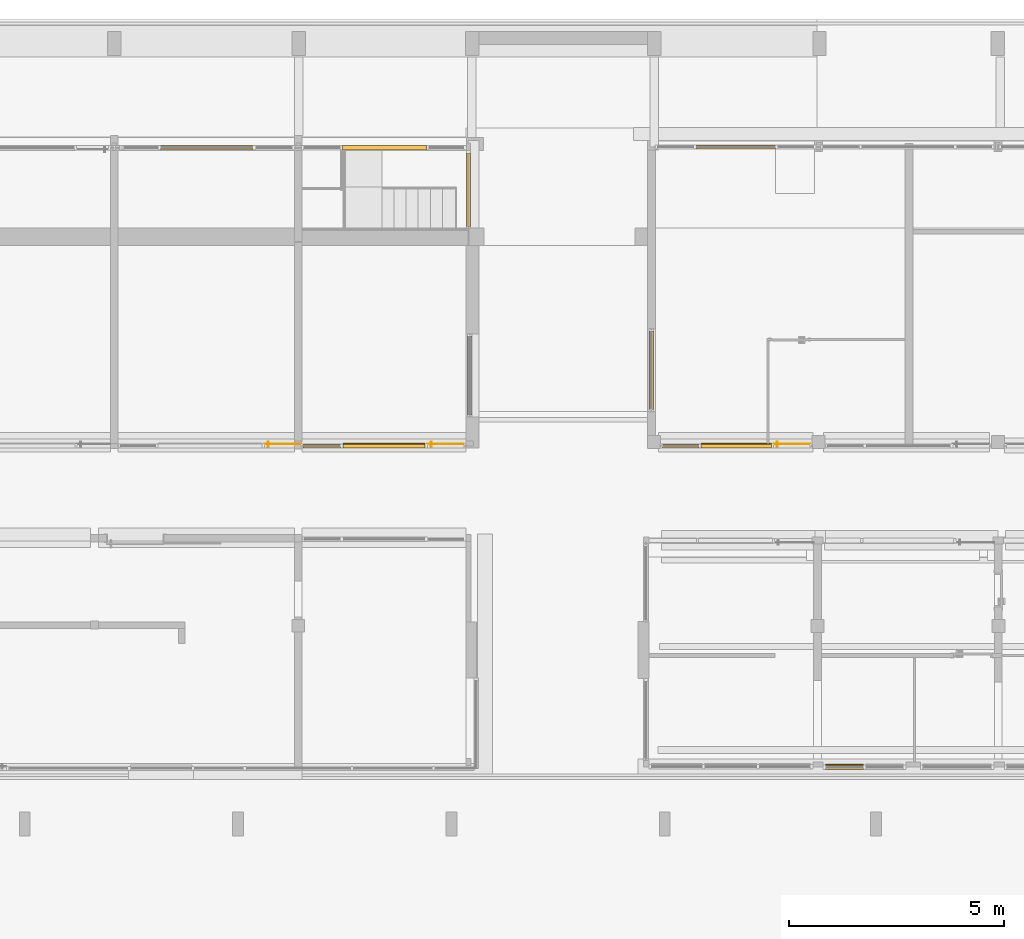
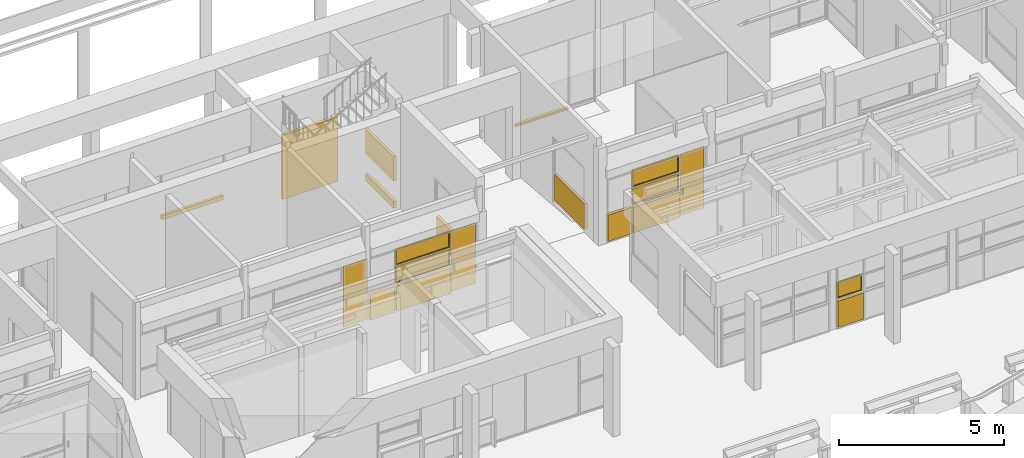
# One storey, part 106 of 117: 12 curtain walls, 5 windows, 3 doors, 9 elements without a shape of their own.
"""IFC4 building model written with IfcOpenShell, lengths in metres."""

from ifc_helpers import new_model, entity, si_unit, converted_unit, derived_unit, direction, frame, origin, place, context, subcontext, project, spatial, indexed_curve, outline, extrude, source, transform, mapped, material, constituent, constituent_set, type_object, type_shapes, element, aggregate, save


model = new_model("IFC4")

# Units and contexts
model_context = context("Model", 3, precision=1e-05, world=origin(), true_north=direction((6.123031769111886e-17, 1.0)))
body_context = subcontext(model_context, "Body", "Model", "MODEL_VIEW")
ifc_project = project(units=[si_unit("LENGTHUNIT", "METRE"), si_unit("AREAUNIT", "SQUARE_METRE"), si_unit("VOLUMEUNIT", "CUBIC_METRE"), converted_unit("PLANEANGLEUNIT", "DEGREE", entity("IfcRatioMeasure", 0.017453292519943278), si_unit("PLANEANGLEUNIT", "RADIAN"), dimensions=[0, 0, 0, 0, 0, 0, 0]), si_unit("MASSUNIT", "GRAM", prefix="KILO"), derived_unit("MASSDENSITYUNIT", [(si_unit("MASSUNIT", "GRAM", prefix="KILO"), 1), (si_unit("LENGTHUNIT", "METRE"), -3)]), derived_unit("MOMENTOFINERTIAUNIT", [(si_unit("LENGTHUNIT", "METRE"), 4)]), si_unit("TIMEUNIT", "SECOND"), si_unit("FREQUENCYUNIT", "HERTZ"), si_unit("THERMODYNAMICTEMPERATUREUNIT", "DEGREE_CELSIUS"), derived_unit("THERMALTRANSMITTANCEUNIT", [(si_unit("MASSUNIT", "GRAM", prefix="KILO"), 1), (si_unit("THERMODYNAMICTEMPERATUREUNIT", "KELVIN"), -1), (si_unit("TIMEUNIT", "SECOND"), -3)]), derived_unit("VOLUMETRICFLOWRATEUNIT", [(si_unit("LENGTHUNIT", "METRE"), 3), (si_unit("TIMEUNIT", "SECOND"), -1)]), derived_unit("MASSFLOWRATEUNIT", [(si_unit("MASSUNIT", "GRAM", prefix="KILO"), 1), (si_unit("TIMEUNIT", "SECOND"), -1)]), derived_unit("ROTATIONALFREQUENCYUNIT", [(si_unit("TIMEUNIT", "SECOND"), -1)]), si_unit("ELECTRICCURRENTUNIT", "AMPERE"), si_unit("ELECTRICVOLTAGEUNIT", "VOLT"), si_unit("POWERUNIT", "WATT"), si_unit("FORCEUNIT", "NEWTON", prefix="KILO"), si_unit("ILLUMINANCEUNIT", "LUX"), si_unit("LUMINOUSFLUXUNIT", "LUMEN"), si_unit("LUMINOUSINTENSITYUNIT", "CANDELA"), derived_unit("USERDEFINED", [(si_unit("MASSUNIT", "GRAM", prefix="KILO"), -1), (si_unit("LENGTHUNIT", "METRE"), -2), (si_unit("TIMEUNIT", "SECOND"), 3), (si_unit("LUMINOUSFLUXUNIT", "LUMEN"), 1)]), derived_unit("SOUNDPOWERUNIT", [(si_unit("MASSUNIT", "GRAM", prefix="KILO"), 1), (si_unit("LENGTHUNIT", "METRE"), 2), (si_unit("TIMEUNIT", "SECOND"), -3)]), derived_unit("SOUNDPRESSUREUNIT", [(si_unit("MASSUNIT", "GRAM", prefix="KILO"), 1), (si_unit("LENGTHUNIT", "METRE"), -1), (si_unit("TIMEUNIT", "SECOND"), -2)]), derived_unit("LINEARVELOCITYUNIT", [(si_unit("LENGTHUNIT", "METRE"), 1), (si_unit("TIMEUNIT", "SECOND"), -1)]), si_unit("PRESSUREUNIT", "PASCAL"), derived_unit("USERDEFINED", [(si_unit("LENGTHUNIT", "METRE"), -2), (si_unit("MASSUNIT", "GRAM", prefix="KILO"), 1), (si_unit("TIMEUNIT", "SECOND"), -2)]), derived_unit("LINEARFORCEUNIT", [(si_unit("MASSUNIT", "GRAM", prefix="KILO"), 1), (si_unit("LENGTHUNIT", "METRE"), 1), (si_unit("TIMEUNIT", "SECOND"), -2), (si_unit("LENGTHUNIT", "METRE"), -1)]), derived_unit("PLANARFORCEUNIT", [(si_unit("MASSUNIT", "GRAM", prefix="KILO"), 1), (si_unit("LENGTHUNIT", "METRE"), 1), (si_unit("TIMEUNIT", "SECOND"), -2), (si_unit("LENGTHUNIT", "METRE"), -2)])], contexts=[model_context])

# Site, building, storey
site_placement = place(None, origin())
site = spatial("IfcSite", under=ifc_project, at=site_placement, Name="Superficie", CompositionType="ELEMENT")
building_placement = place(site_placement, origin())
building = spatial("IfcBuilding", under=site, at=building_placement, CompositionType="ELEMENT")
storey_placement = place(building_placement, origin())
storey = spatial("IfcBuildingStorey", under=building, at=storey_placement, Name="Nivel 0", CompositionType="ELEMENT", Elevation=0.0)

# Curtain walls
curtain_wall_type_1 = type_object("IfcCurtainWallType", Name="Muro cortina:Muro cortina - simple", PredefinedType="NOTDEFINED")
curtain_wall_1_placement = place(storey_placement, origin())
curtain_wall_1 = element("IfcCurtainWall", 1, at=curtain_wall_1_placement, inside=storey, type_object=curtain_wall_type_1, Name="Muro cortina:Muro cortina - simple", ObjectType="Muro cortina:Muro cortina - simple", PredefinedType="NOTDEFINED")
ifc_material_1 = material(Name="<Unnamed>")
curtain_wall_type_2 = type_object("IfcCurtainWallType", Name="Muro básico:Por defecto - 10 cm", PredefinedType="NOTDEFINED")
curtain_wall_2_placement = place(storey_placement, frame((-7.2336665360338, 5.715829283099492, 0.04500000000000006)))
curtain_wall_2 = element("IfcCurtainWall", 2, at=curtain_wall_2_placement, type_object=curtain_wall_type_2, material=ifc_material_1, Name="Muro básico:Por defecto - 10 cm", ObjectType="Muro básico:Por defecto - 10 cm", PredefinedType="NOTDEFINED", context=body_context, shape_type="SweptSolid", body=[
    extrude(outline(indexed_curve([(0.8750000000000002, 0.05000000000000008), (-1.5924516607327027e-16, 0.04999999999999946), (1.5924516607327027e-16, -0.04999999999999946), (0.8750000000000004, -0.049999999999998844), (0.8750000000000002, 0.05000000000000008)], self_intersect=False)), origin(), (0.0, 0.0, 1.0), 0.9500000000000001),
])
curtain_wall_3_placement = place(storey_placement, frame((-6.3086665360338, 5.715829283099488, 0.04500000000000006)))
curtain_wall_3 = element("IfcCurtainWall", 3, at=curtain_wall_3_placement, type_object=curtain_wall_type_2, material=ifc_material_1, Name="Muro básico:Por defecto - 10 cm", ObjectType="Muro básico:Por defecto - 10 cm", PredefinedType="NOTDEFINED", context=body_context, shape_type="SweptSolid", body=[
    extrude(outline(indexed_curve([(1.9104655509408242, 0.05000000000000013), (-1.5924516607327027e-16, 0.04999999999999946), (1.5924516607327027e-16, -0.04999999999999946), (1.9104655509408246, -0.049999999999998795), (1.9104655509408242, 0.05000000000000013)], self_intersect=False)), origin(), (0.0, 0.0, 1.0), 0.9500000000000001),
])

curtain_wall_4_placement = place(storey_placement, origin())
curtain_wall_4 = element("IfcCurtainWall", 4, at=curtain_wall_4_placement, inside=storey, type_object=curtain_wall_type_1, Name="Muro cortina:Muro cortina - simple", ObjectType="Muro cortina:Muro cortina - simple", PredefinedType="NOTDEFINED")
curtain_wall_5_placement = place(storey_placement, frame((-3.3632009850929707, 8.268063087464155, 0.04500000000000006), z_axis=(0.0, 0.0, 1.0), x_axis=(0.0, -1.0, 0.0)))
curtain_wall_5 = element("IfcCurtainWall", 5, at=curtain_wall_5_placement, type_object=curtain_wall_type_2, material=ifc_material_1, Name="Muro básico:Por defecto - 10 cm", ObjectType="Muro básico:Por defecto - 10 cm", PredefinedType="NOTDEFINED", context=body_context, shape_type="SweptSolid", body=[
    extrude(outline(indexed_curve([(1.8272338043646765, 0.049999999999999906), (-5.660014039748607e-17, 0.05), (5.660014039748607e-17, -0.05), (1.8272338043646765, -0.05000000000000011), (1.8272338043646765, 0.049999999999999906)], self_intersect=False)), origin(), (0.0, 0.0, 1.0), 0.9500000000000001),
])
aggregate(curtain_wall_4, [curtain_wall_5])

curtain_wall_6_placement = place(storey_placement, origin())
curtain_wall_6 = element("IfcCurtainWall", 6, at=curtain_wall_6_placement, inside=storey, type_object=curtain_wall_type_1, Name="Muro cortina:Muro cortina - simple", ObjectType="Muro cortina:Muro cortina - simple", PredefinedType="NOTDEFINED")
curtain_wall_7_placement = place(storey_placement, frame((0.8515520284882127, 8.388973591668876, 0.04500000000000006), z_axis=(0.0, 0.0, 1.0), x_axis=(0.0, -1.0, 0.0)))
curtain_wall_7 = element("IfcCurtainWall", 7, at=curtain_wall_7_placement, type_object=curtain_wall_type_2, material=ifc_material_1, Name="Muro básico:Por defecto - 10 cm", ObjectType="Muro básico:Por defecto - 10 cm", PredefinedType="NOTDEFINED", context=body_context, shape_type="SweptSolid", body=[
    extrude(outline(indexed_curve([(1.8272338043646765, 0.049999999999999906), (-5.660014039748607e-17, 0.05), (5.660014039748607e-17, -0.05), (1.8272338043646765, -0.05000000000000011), (1.8272338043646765, 0.049999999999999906)], self_intersect=False)), origin(), (0.0, 0.0, 1.0), 0.9500000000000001),
])
aggregate(curtain_wall_6, [curtain_wall_7])

curtain_wall_8_placement = place(storey_placement, origin())
curtain_wall_8 = element("IfcCurtainWall", 8, at=curtain_wall_8_placement, inside=storey, type_object=curtain_wall_type_1, Name="Muro cortina:Muro cortina - simple", ObjectType="Muro cortina:Muro cortina - simple", PredefinedType="NOTDEFINED")
curtain_wall_9_placement = place(storey_placement, frame((1.1065520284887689, 5.7167397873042, 0.04500000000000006)))
curtain_wall_9 = element("IfcCurtainWall", 9, at=curtain_wall_9_placement, type_object=curtain_wall_type_2, material=ifc_material_1, Name="Muro básico:Por defecto - 10 cm", ObjectType="Muro básico:Por defecto - 10 cm", PredefinedType="NOTDEFINED", context=body_context, shape_type="SweptSolid", body=[
    extrude(outline(indexed_curve([(0.8500000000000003, 0.04999999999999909), (-3.383959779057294e-17, 0.04999999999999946), (3.383959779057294e-17, -0.04999999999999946), (0.8500000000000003, -0.049999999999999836), (0.8500000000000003, 0.04999999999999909)], self_intersect=False)), origin(), (0.0, 0.0, 1.0), 0.9750000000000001),
])
curtain_wall_10_placement = place(storey_placement, frame((2.0065520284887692, 5.716739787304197, 0.04500000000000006)))
curtain_wall_10 = element("IfcCurtainWall", 10, at=curtain_wall_10_placement, type_object=curtain_wall_type_2, material=ifc_material_1, Name="Muro básico:Por defecto - 10 cm", ObjectType="Muro básico:Por defecto - 10 cm", PredefinedType="NOTDEFINED", context=body_context, shape_type="SweptSolid", body=[
    extrude(outline(indexed_curve([(1.6300000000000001, 0.049999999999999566), (-1.6919798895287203e-16, 0.04999999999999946), (-1.0151879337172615e-16, -0.04999999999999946), (1.6300000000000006, -0.049999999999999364), (1.6300000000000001, 0.049999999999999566)], self_intersect=False)), origin(), (0.0, 0.0, 1.0), 0.9499999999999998),
])

curtain_wall_11_placement = place(storey_placement, origin())
curtain_wall_11 = element("IfcCurtainWall", 11, at=curtain_wall_11_placement, inside=storey, type_object=curtain_wall_type_1, Name="Muro cortina:Muro cortina - simple", ObjectType="Muro cortina:Muro cortina - simple", PredefinedType="NOTDEFINED")
curtain_wall_12_placement = place(storey_placement, frame((-3.3932009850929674, 10.815829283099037, -0.26031498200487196), z_axis=(0.0, 0.0, 1.0), x_axis=(0.0, 1.0, 0.0)))
curtain_wall_12 = element("IfcCurtainWall", 12, at=curtain_wall_12_placement, type_object=curtain_wall_type_2, material=ifc_material_1, Name="Muro básico:Por defecto - 10 cm", ObjectType="Muro básico:Por defecto - 10 cm", PredefinedType="NOTDEFINED", context=body_context, shape_type="SweptSolid", body=[
    extrude(outline(indexed_curve([(1.7050000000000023, 0.04999999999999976), (-5.639932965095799e-17, 0.05), (5.639932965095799e-17, -0.05), (1.7050000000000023, -0.05000000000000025), (1.7050000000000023, 0.04999999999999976)], self_intersect=False)), origin(), (0.0, 0.0, 1.0), 0.25531498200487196),
])
curtain_wall_13_placement = place(storey_placement, frame((-3.3932009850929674, 10.815829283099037, 0.755), z_axis=(0.0, 0.0, 1.0), x_axis=(0.0, 1.0, 0.0)))
curtain_wall_13 = element("IfcCurtainWall", 13, at=curtain_wall_13_placement, type_object=curtain_wall_type_2, material=ifc_material_1, Name="Muro básico:Por defecto - 10 cm", ObjectType="Muro básico:Por defecto - 10 cm", PredefinedType="NOTDEFINED", context=body_context, shape_type="SweptSolid", body=[
    extrude(outline(indexed_curve([(1.7050000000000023, 0.04999999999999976), (-5.639932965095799e-17, 0.05), (5.639932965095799e-17, -0.05), (1.7050000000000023, -0.05000000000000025), (1.7050000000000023, 0.04999999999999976)], self_intersect=False)), origin(), (0.0, 0.0, 1.0), 0.8999999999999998),
])
aggregate(curtain_wall_11, [curtain_wall_12, curtain_wall_13])

curtain_wall_14_placement = place(storey_placement, origin())
curtain_wall_14 = element("IfcCurtainWall", 14, at=curtain_wall_14_placement, inside=storey, type_object=curtain_wall_type_1, Name="Muro cortina:Muro cortina - simple", ObjectType="Muro cortina:Muro cortina - simple", PredefinedType="NOTDEFINED")
curtain_wall_15_placement = place(storey_placement, frame((4.886799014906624, -1.734170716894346, 0.05)))
curtain_wall_15 = element("IfcCurtainWall", 15, at=curtain_wall_15_placement, type_object=curtain_wall_type_2, material=ifc_material_1, Name="Muro básico:Por defecto - 10 cm", ObjectType="Muro básico:Por defecto - 10 cm", PredefinedType="NOTDEFINED", context=body_context, shape_type="SweptSolid", body=[
    extrude(outline(indexed_curve([(0.8850000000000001, 0.05000000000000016), (-1.6184125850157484e-16, 0.05), (1.6184125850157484e-16, -0.05), (0.8850000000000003, -0.04999999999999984), (0.8850000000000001, 0.05000000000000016)], self_intersect=False)), origin(), (0.0, 0.0, 1.0), 0.975),
])

curtain_wall_16_placement = place(storey_placement, origin())
curtain_wall_16 = element("IfcCurtainWall", 16, at=curtain_wall_16_placement, inside=storey, type_object=curtain_wall_type_1, Name="Muro cortina:Muro cortina - simple", ObjectType="Muro cortina:Muro cortina - simple", PredefinedType="NOTDEFINED")
curtain_wall_17_placement = place(storey_placement, frame((3.7265520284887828, 12.65454840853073, -0.1874502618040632), z_axis=(0.0, 0.0, 1.0), x_axis=(-1.0, 0.0, 0.0)))
curtain_wall_17 = element("IfcCurtainWall", 17, at=curtain_wall_17_placement, type_object=curtain_wall_type_2, material=ifc_material_1, Name="Muro básico:Por defecto - 10 cm", ObjectType="Muro básico:Por defecto - 10 cm", PredefinedType="NOTDEFINED", context=body_context, shape_type="SweptSolid", body=[
    extrude(outline(indexed_curve([(1.8400000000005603, 0.050000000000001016), (-1.6002962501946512e-16, 0.04999999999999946), (1.6002962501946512e-16, -0.04999999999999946), (1.840000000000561, -0.04999999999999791), (1.8400000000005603, 0.050000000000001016)], self_intersect=False)), origin(), (0.0, 0.0, 1.0), 0.07597316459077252),
])
aggregate(curtain_wall_16, [curtain_wall_17])

curtain_wall_18_placement = place(storey_placement, origin())
curtain_wall_18 = element("IfcCurtainWall", 18, at=curtain_wall_18_placement, inside=storey, type_object=curtain_wall_type_1, Name="Muro cortina:Muro cortina - simple", ObjectType="Muro cortina:Muro cortina - simple", PredefinedType="NOTDEFINED")
curtain_wall_19_placement = place(storey_placement, frame((-4.368200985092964, 12.640829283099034, 0.0), z_axis=(0.0, 0.0, 1.0), x_axis=(-1.0, 0.0, 0.0)))
curtain_wall_19 = element("IfcCurtainWall", 19, at=curtain_wall_19_placement, type_object=curtain_wall_type_2, material=ifc_material_1, Name="Muro básico:Por defecto - 10 cm", ObjectType="Muro básico:Por defecto - 10 cm", PredefinedType="NOTDEFINED", context=body_context, shape_type="SweptSolid", body=[
    extrude(outline(indexed_curve([(1.949187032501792, 0.0499999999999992), (-1.6002962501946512e-16, 0.04999999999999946), (1.6002962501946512e-16, -0.04999999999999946), (1.9491870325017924, -0.049999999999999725), (1.949187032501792, 0.0499999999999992)], self_intersect=False)), origin(), (0.0, 0.0, 1.0), 2.3899999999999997),
])
curtain_wall_20_placement = place(storey_placement, frame((-8.387388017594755, 12.640829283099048, 0.7250000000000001), z_axis=(0.0, 0.0, 1.0), x_axis=(-1.0, 0.0, 0.0)))
curtain_wall_20 = element("IfcCurtainWall", 20, at=curtain_wall_20_placement, type_object=curtain_wall_type_2, material=ifc_material_1, Name="Muro básico:Por defecto - 10 cm", ObjectType="Muro básico:Por defecto - 10 cm", PredefinedType="NOTDEFINED", context=body_context, shape_type="SweptSolid", body=[
    extrude(outline(indexed_curve([(2.1499999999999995, 0.04999999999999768), (-1.6002962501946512e-16, 0.04999999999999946), (1.6002962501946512e-16, -0.04999999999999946), (2.15, -0.050000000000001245), (2.1499999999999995, 0.04999999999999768)], self_intersect=False)), origin(), (0.0, 0.0, 1.0), 0.15000000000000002),
])
aggregate(curtain_wall_18, [curtain_wall_19, curtain_wall_20])

# Curtain wall, door
curtain_wall_21_placement = place(storey_placement, origin())
curtain_wall_21 = element("IfcCurtainWall", 21, at=curtain_wall_21_placement, inside=storey, type_object=curtain_wall_type_1, Name="Muro cortina:Muro cortina - simple", ObjectType="Muro cortina:Muro cortina - simple", PredefinedType="NOTDEFINED")
ifc_material_2 = material(Name="Metal - Aluminio", Category="Metal")
ifc_constituent_1 = constituent(ifc_material_2, Name="Metal - Aluminio", Category="Metal")
ifc_material_3 = material(Name="Vidrio", Category="Vidrio")
ifc_constituent_2 = constituent(ifc_material_3, Name="Vidrio", Category="Vidrio")
ifc_constituent_set_1 = constituent_set(constituents=[ifc_constituent_1, ifc_constituent_2], Name="MaterialConstituentSet")
ifc_constituent_3 = constituent(ifc_material_2, Name="Marco/montante", Category="Metal")
ifc_constituent_4 = constituent(ifc_material_3, Name="Panel", Category="Vidrio")
ifc_constituent_set_2 = constituent_set(constituents=[ifc_constituent_3, ifc_constituent_4], Name="MaterialConstituentSet")
door_type_1 = type_object("IfcDoorType", Name="Puerta de cristal abatible en muro cortina:Puerta de cristal abatible en muro cortina", OperationType="NOTDEFINED", PredefinedType="DOOR", material=ifc_constituent_set_2)
shared_shape_1 = source(origin(), body_context, "Body", "SweptSolid", [
    extrude(outline(indexed_curve([(-0.0254, -0.012700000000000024), (0.0254, -0.012700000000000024), (0.0254, 0.012700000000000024), (-0.0254, 0.012700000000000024), (-0.0254, -0.012700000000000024)], self_intersect=False)), frame((-0.3360999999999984, 0.012900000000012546, 0.7619999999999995), z_axis=(0.0, 0.0, 1.0), x_axis=(0.0, 1.0, 0.0)), (0.0, 0.0, 1.0), 0.22860000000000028),
    extrude(outline(indexed_curve([(-0.025399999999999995, -0.012699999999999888), (0.025400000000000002, -0.012699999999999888), (0.025400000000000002, 0.01269999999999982), (-0.025399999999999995, 0.01269999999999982), (-0.025399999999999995, -0.012699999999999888)], self_intersect=False)), frame((-0.33609999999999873, 0.07640000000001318, 0.762), z_axis=(0.0, 0.0, 1.0), x_axis=(0.0, -1.0, 0.0)), (0.0, 0.0, 1.0), 0.22860000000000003),
    extrude(outline(indexed_curve([(-0.4249999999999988, -0.006350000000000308), (0.4249999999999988, -0.006350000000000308), (0.4249999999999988, 0.006350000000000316), (-0.4249999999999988, 0.006350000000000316), (-0.4249999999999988, -0.006350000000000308)], self_intersect=False)), frame((0.0, 0.04465000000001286, 0.0), z_axis=(0.0, 0.0, 1.0), x_axis=(-1.0, 0.0, 0.0)), (0.0, 0.0, 1.0), 2.2549999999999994),
])
type_shapes(door_type_1, [shared_shape_1])
door_1_placement = place(curtain_wall_21_placement, frame((-7.703666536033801, 5.715829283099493, 0.04499999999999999)))
door_1 = element("IfcDoor", 22, at=door_1_placement, type_object=door_type_1, material=ifc_constituent_set_1, Name="Puerta de cristal abatible en muro cortina:Puerta de cristal abatible en muro cortina", ObjectType="Puerta de cristal abatible en muro cortina:Puerta de cristal abatible en muro cortina", OperationType="NOTDEFINED", OverallHeight=2.2549999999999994, OverallWidth=0.8499999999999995, PredefinedType="DOOR", context=body_context, shape_type="MappedRepresentation", body=[
    mapped(shared_shape_1, transform((0.0, 0.0, 0.0), scale=1.0)),
])
aggregate(curtain_wall_21, [door_1])

# Door
ifc_constituent_5 = constituent(ifc_material_2, Name="Metal - Aluminio", Category="Metal")
ifc_constituent_6 = constituent(ifc_material_3, Name="Vidrio", Category="Vidrio")
ifc_constituent_set_3 = constituent_set(constituents=[ifc_constituent_5, ifc_constituent_6], Name="MaterialConstituentSet")
door_2_placement = place(curtain_wall_1_placement, frame((-3.9232009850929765, 5.71582928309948, 0.04499999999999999)))
door_2 = element("IfcDoor", 23, at=door_2_placement, type_object=door_type_1, material=ifc_constituent_set_3, Name="Puerta de cristal abatible en muro cortina:Puerta de cristal abatible en muro cortina", ObjectType="Puerta de cristal abatible en muro cortina:Puerta de cristal abatible en muro cortina", OperationType="NOTDEFINED", OverallHeight=2.2549999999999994, OverallWidth=0.8499999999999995, PredefinedType="DOOR", context=body_context, shape_type="MappedRepresentation", body=[
    mapped(shared_shape_1, transform((0.0, 0.0, 0.0), scale=1.0)),
])

# Window
ifc_constituent_7 = constituent(ifc_material_3, Name="Vidrio", Category="Vidrio")
ifc_constituent_8 = constituent(ifc_material_2, Name="Metal - Aluminio", Category="Metal")
ifc_constituent_set_4 = constituent_set(constituents=[ifc_constituent_7, ifc_constituent_8], Name="MaterialConstituentSet")
ifc_constituent_9 = constituent(ifc_material_3, Name="Cristal", Category="Vidrio")
ifc_constituent_10 = constituent(ifc_material_2, Name="Marco/montante", Category="Metal")
ifc_constituent_set_5 = constituent_set(constituents=[ifc_constituent_9, ifc_constituent_10], Name="MaterialConstituentSet")
window_type_1 = type_object("IfcWindowType", Name="Ventana de muro cortina con proyectable simple:Ventana de muro cortina con proyectable simple", PartitioningType="NOTDEFINED", PredefinedType="WINDOW", material=ifc_constituent_set_5)
shared_shape_2 = source(origin(), body_context, "Body", "SweptSolid", [
    extrude(outline(indexed_curve([(-0.006350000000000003, -0.9252327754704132), (0.0063499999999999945, -0.9252327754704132), (0.0063499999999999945, 0.9252327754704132), (-0.006350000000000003, 0.9252327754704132), (-0.006350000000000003, -0.9252327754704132)], self_intersect=False)), frame((0.0, 0.05039999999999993, 0.030000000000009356), z_axis=(0.0, 0.0, 1.0), x_axis=(0.0, 1.0, 0.0)), (0.0, 0.0, 1.0), 0.5549999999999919),
    extrude(outline(indexed_curve([(-0.9552327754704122, -0.30750000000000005), (0.9552327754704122, -0.30750000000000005), (0.9552327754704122, 0.30750000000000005), (-0.9552327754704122, 0.30750000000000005), (-0.9552327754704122, -0.30750000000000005)], self_intersect=False), holes=[indexed_curve([(-0.9252327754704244, -0.2775000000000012), (-0.9252327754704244, 0.27749999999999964), (0.9252327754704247, 0.27749999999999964), (0.9252327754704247, -0.2775000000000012), (-0.9252327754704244, -0.2775000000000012)], self_intersect=False)]), frame((0.0, 0.024999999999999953, 0.30750000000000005), z_axis=(0.0, 1.0, 0.0), x_axis=(1.0, 0.0, 0.0)), (0.0, 0.0, 1.0), 0.05000000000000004),
])
type_shapes(window_type_1, [shared_shape_2])
window_1_placement = place(curtain_wall_1_placement, frame((-5.353433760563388, 5.715829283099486, 1.045)))
window_1 = element("IfcWindow", 24, at=window_1_placement, type_object=window_type_1, material=ifc_constituent_set_4, Name="Ventana de muro cortina con proyectable simple:Ventana de muro cortina con proyectable simple", ObjectType="Ventana de muro cortina con proyectable simple:Ventana de muro cortina con proyectable simple", OverallHeight=0.6150000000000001, OverallWidth=1.9104655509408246, PartitioningType="NOTDEFINED", PredefinedType="WINDOW", context=body_context, shape_type="MappedRepresentation", body=[
    mapped(shared_shape_2, transform((0.0, 0.0, 0.0), scale=1.0)),
])

ifc_constituent_11 = constituent(ifc_material_3, Name="Vidrio", Category="Vidrio")
ifc_constituent_12 = constituent(ifc_material_2, Name="Metal - Aluminio", Category="Metal")
ifc_constituent_set_6 = constituent_set(constituents=[ifc_constituent_11, ifc_constituent_12], Name="MaterialConstituentSet")
ifc_constituent_13 = constituent(ifc_material_3, Name="Cristal", Category="Vidrio")
ifc_constituent_14 = constituent(ifc_material_2, Name="Marco/montante", Category="Metal")
ifc_constituent_set_7 = constituent_set(constituents=[ifc_constituent_13, ifc_constituent_14], Name="MaterialConstituentSet")
window_type_2 = type_object("IfcWindowType", Name="Ventana de muro cortina con proyectable simple:Ventana de muro cortina con proyectable simple", PartitioningType="NOTDEFINED", PredefinedType="WINDOW", material=ifc_constituent_set_7)
shared_shape_3 = source(origin(), body_context, "Body", "SweptSolid", [
    extrude(outline(indexed_curve([(-0.006350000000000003, -0.9252327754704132), (0.0063499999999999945, -0.9252327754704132), (0.0063499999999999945, 0.9252327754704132), (-0.006350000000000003, 0.9252327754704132), (-0.006350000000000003, -0.9252327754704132)], self_intersect=False)), frame((0.0, 0.05039999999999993, 0.030000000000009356), z_axis=(0.0, 0.0, 1.0), x_axis=(0.0, 1.0, 0.0)), (0.0, 0.0, 1.0), 0.5299999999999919),
    extrude(outline(indexed_curve([(-0.9552327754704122, -0.2950000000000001), (0.9552327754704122, -0.2950000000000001), (0.9552327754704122, 0.2950000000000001), (-0.9552327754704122, 0.2950000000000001), (-0.9552327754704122, -0.2950000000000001)], self_intersect=False), holes=[indexed_curve([(-0.9252327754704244, -0.26500000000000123), (-0.9252327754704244, 0.2649999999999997), (0.9252327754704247, 0.2649999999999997), (0.9252327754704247, -0.26500000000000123), (-0.9252327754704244, -0.26500000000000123)], self_intersect=False)]), frame((0.0, 0.024999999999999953, 0.2950000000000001), z_axis=(0.0, 1.0, 0.0), x_axis=(1.0, 0.0, 0.0)), (0.0, 0.0, 1.0), 0.05000000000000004),
])
type_shapes(window_type_2, [shared_shape_3])
window_2_placement = place(curtain_wall_1_placement, frame((-5.353433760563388, 5.715829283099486, 1.71)))
window_2 = element("IfcWindow", 25, at=window_2_placement, type_object=window_type_2, material=ifc_constituent_set_6, Name="Ventana de muro cortina con proyectable simple:Ventana de muro cortina con proyectable simple", ObjectType="Ventana de muro cortina con proyectable simple:Ventana de muro cortina con proyectable simple", OverallHeight=0.5900000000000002, OverallWidth=1.9104655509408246, PartitioningType="NOTDEFINED", PredefinedType="WINDOW", context=body_context, shape_type="MappedRepresentation", body=[
    mapped(shared_shape_3, transform((0.0, 0.0, 0.0), scale=1.0)),
])

aggregate(curtain_wall_1, [curtain_wall_2, curtain_wall_3, door_2, window_1, window_2])

# Door
ifc_constituent_15 = constituent(ifc_material_2, Name="Metal - Aluminio", Category="Metal")
ifc_constituent_16 = constituent(ifc_material_3, Name="Vidrio", Category="Vidrio")
ifc_constituent_set_8 = constituent_set(constituents=[ifc_constituent_15, ifc_constituent_16], Name="MaterialConstituentSet")
ifc_constituent_17 = constituent(ifc_material_2, Name="Marco/montante", Category="Metal")
ifc_constituent_18 = constituent(ifc_material_3, Name="Panel", Category="Vidrio")
ifc_constituent_set_9 = constituent_set(constituents=[ifc_constituent_17, ifc_constituent_18], Name="MaterialConstituentSet")
door_type_2 = type_object("IfcDoorType", Name="Puerta de cristal abatible en muro cortina:Puerta de cristal abatible en muro cortina", OperationType="NOTDEFINED", PredefinedType="DOOR", material=ifc_constituent_set_9)
shared_shape_4 = source(origin(), body_context, "Body", "SweptSolid", [
    extrude(outline(indexed_curve([(-0.0254, -0.012700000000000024), (0.0254, -0.012700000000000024), (0.0254, 0.012700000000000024), (-0.0254, 0.012700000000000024), (-0.0254, -0.012700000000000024)], self_intersect=False)), frame((-0.33609999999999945, 0.012900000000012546, 0.7619999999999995), z_axis=(0.0, 0.0, 1.0), x_axis=(0.0, 1.0, 0.0)), (0.0, 0.0, 1.0), 0.22860000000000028),
    extrude(outline(indexed_curve([(-0.025399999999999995, -0.012699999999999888), (0.025400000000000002, -0.012699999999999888), (0.025400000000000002, 0.01269999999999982), (-0.025399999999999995, 0.01269999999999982), (-0.025399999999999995, -0.012699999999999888)], self_intersect=False)), frame((-0.3360999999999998, 0.07640000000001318, 0.762), z_axis=(0.0, 0.0, 1.0), x_axis=(0.0, -1.0, 0.0)), (0.0, 0.0, 1.0), 0.22860000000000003),
    extrude(outline(indexed_curve([(-0.4249999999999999, -0.006350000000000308), (0.4249999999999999, -0.006350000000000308), (0.4249999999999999, 0.006350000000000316), (-0.4249999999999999, 0.006350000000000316), (-0.4249999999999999, -0.006350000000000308)], self_intersect=False)), frame((0.0, 0.04465000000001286, 0.0), z_axis=(0.0, 0.0, 1.0), x_axis=(-1.0, 0.0, 0.0)), (0.0, 0.0, 1.0), 2.2849999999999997),
])
type_shapes(door_type_2, [shared_shape_4])
door_3_placement = place(curtain_wall_8_placement, frame((4.11155202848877, 5.716739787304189, 0.04499999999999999)))
door_3 = element("IfcDoor", 26, at=door_3_placement, type_object=door_type_2, material=ifc_constituent_set_8, Name="Puerta de cristal abatible en muro cortina:Puerta de cristal abatible en muro cortina", ObjectType="Puerta de cristal abatible en muro cortina:Puerta de cristal abatible en muro cortina", OperationType="NOTDEFINED", OverallHeight=2.2849999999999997, OverallWidth=0.8500000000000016, PredefinedType="DOOR", context=body_context, shape_type="MappedRepresentation", body=[
    mapped(shared_shape_4, transform((0.0, 0.0, 0.0), scale=1.0)),
])

# Window
ifc_constituent_19 = constituent(ifc_material_3, Name="Vidrio", Category="Vidrio")
ifc_constituent_20 = constituent(ifc_material_2, Name="Metal - Aluminio", Category="Metal")
ifc_constituent_set_10 = constituent_set(constituents=[ifc_constituent_19, ifc_constituent_20], Name="MaterialConstituentSet")
ifc_constituent_21 = constituent(ifc_material_3, Name="Cristal", Category="Vidrio")
ifc_constituent_22 = constituent(ifc_material_2, Name="Marco/montante", Category="Metal")
ifc_constituent_set_11 = constituent_set(constituents=[ifc_constituent_21, ifc_constituent_22], Name="MaterialConstituentSet")
window_type_3 = type_object("IfcWindowType", Name="Ventana de muro cortina con proyectable simple:Ventana de muro cortina con proyectable simple", PartitioningType="NOTDEFINED", PredefinedType="WINDOW", material=ifc_constituent_set_11)
shared_shape_5 = source(origin(), body_context, "Body", "SweptSolid", [
    extrude(outline(indexed_curve([(-0.006350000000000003, -0.7850000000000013), (0.0063499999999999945, -0.7850000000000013), (0.0063499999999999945, 0.7850000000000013), (-0.006350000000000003, 0.7850000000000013), (-0.006350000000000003, -0.7850000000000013)], self_intersect=False)), frame((0.0, 0.05039999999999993, 0.030000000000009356), z_axis=(0.0, 0.0, 1.0), x_axis=(0.0, 1.0, 0.0)), (0.0, 0.0, 1.0), 0.5449999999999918),
    extrude(outline(indexed_curve([(-0.8150000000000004, -0.3025), (0.8150000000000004, -0.3025), (0.8150000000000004, 0.3025), (-0.8150000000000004, 0.3025), (-0.8150000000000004, -0.3025)], self_intersect=False), holes=[indexed_curve([(-0.7850000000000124, -0.27250000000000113), (-0.7850000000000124, 0.2724999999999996), (0.7850000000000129, 0.2724999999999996), (0.7850000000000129, -0.27250000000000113), (-0.7850000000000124, -0.27250000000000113)], self_intersect=False)]), frame((0.0, 0.024999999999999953, 0.3025), z_axis=(0.0, 1.0, 0.0), x_axis=(1.0, 0.0, 0.0)), (0.0, 0.0, 1.0), 0.05000000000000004),
])
type_shapes(window_type_3, [shared_shape_5])
window_3_placement = place(curtain_wall_8_placement, frame((2.821552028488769, 5.716739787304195, 1.045)))
window_3 = element("IfcWindow", 27, at=window_3_placement, type_object=window_type_3, material=ifc_constituent_set_10, Name="Ventana de muro cortina con proyectable simple:Ventana de muro cortina con proyectable simple", ObjectType="Ventana de muro cortina con proyectable simple:Ventana de muro cortina con proyectable simple", OverallHeight=0.605, OverallWidth=1.6300000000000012, PartitioningType="NOTDEFINED", PredefinedType="WINDOW", context=body_context, shape_type="MappedRepresentation", body=[
    mapped(shared_shape_5, transform((0.0, 0.0, 0.0), scale=1.0)),
])

ifc_constituent_23 = constituent(ifc_material_3, Name="Vidrio", Category="Vidrio")
ifc_constituent_24 = constituent(ifc_material_2, Name="Metal - Aluminio", Category="Metal")
ifc_constituent_set_12 = constituent_set(constituents=[ifc_constituent_23, ifc_constituent_24], Name="MaterialConstituentSet")
ifc_constituent_25 = constituent(ifc_material_3, Name="Cristal", Category="Vidrio")
ifc_constituent_26 = constituent(ifc_material_2, Name="Marco/montante", Category="Metal")
ifc_constituent_set_13 = constituent_set(constituents=[ifc_constituent_25, ifc_constituent_26], Name="MaterialConstituentSet")
window_type_4 = type_object("IfcWindowType", Name="Ventana de muro cortina con proyectable simple:Ventana de muro cortina con proyectable simple", PartitioningType="NOTDEFINED", PredefinedType="WINDOW", material=ifc_constituent_set_13)
shared_shape_6 = source(origin(), body_context, "Body", "SweptSolid", [
    extrude(outline(indexed_curve([(-0.006350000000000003, -0.7850000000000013), (0.0063499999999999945, -0.7850000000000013), (0.0063499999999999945, 0.7850000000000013), (-0.006350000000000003, 0.7850000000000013), (-0.006350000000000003, -0.7850000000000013)], self_intersect=False)), frame((0.0, 0.05039999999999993, 0.030000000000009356), z_axis=(0.0, 0.0, 1.0), x_axis=(0.0, 1.0, 0.0)), (0.0, 0.0, 1.0), 0.5699999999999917),
    extrude(outline(indexed_curve([(-0.8150000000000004, -0.315), (0.8150000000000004, -0.315), (0.8150000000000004, 0.315), (-0.8150000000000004, 0.315), (-0.8150000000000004, -0.315)], self_intersect=False), holes=[indexed_curve([(-0.7850000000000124, -0.28500000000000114), (-0.7850000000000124, 0.2849999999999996), (0.7850000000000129, 0.2849999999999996), (0.7850000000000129, -0.28500000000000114), (-0.7850000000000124, -0.28500000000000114)], self_intersect=False)]), frame((0.0, 0.024999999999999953, 0.315), z_axis=(0.0, 1.0, 0.0), x_axis=(1.0, 0.0, 0.0)), (0.0, 0.0, 1.0), 0.05000000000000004),
])
type_shapes(window_type_4, [shared_shape_6])
window_4_placement = place(curtain_wall_8_placement, frame((2.821552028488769, 5.716739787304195, 1.7)))
window_4 = element("IfcWindow", 28, at=window_4_placement, type_object=window_type_4, material=ifc_constituent_set_12, Name="Ventana de muro cortina con proyectable simple:Ventana de muro cortina con proyectable simple", ObjectType="Ventana de muro cortina con proyectable simple:Ventana de muro cortina con proyectable simple", OverallHeight=0.63, OverallWidth=1.6300000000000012, PartitioningType="NOTDEFINED", PredefinedType="WINDOW", context=body_context, shape_type="MappedRepresentation", body=[
    mapped(shared_shape_6, transform((0.0, 0.0, 0.0), scale=1.0)),
])

aggregate(curtain_wall_8, [curtain_wall_9, curtain_wall_10, door_3, window_3, window_4])

ifc_constituent_27 = constituent(ifc_material_3, Name="Vidrio", Category="Vidrio")
ifc_constituent_28 = constituent(ifc_material_2, Name="Metal - Aluminio", Category="Metal")
ifc_constituent_set_14 = constituent_set(constituents=[ifc_constituent_27, ifc_constituent_28], Name="MaterialConstituentSet")
ifc_constituent_29 = constituent(ifc_material_3, Name="Cristal", Category="Vidrio")
ifc_constituent_30 = constituent(ifc_material_2, Name="Marco/montante", Category="Metal")
ifc_constituent_set_15 = constituent_set(constituents=[ifc_constituent_29, ifc_constituent_30], Name="MaterialConstituentSet")
window_type_5 = type_object("IfcWindowType", Name="Ventana de muro cortina con proyectable simple:Ventana de muro cortina con proyectable simple", PartitioningType="NOTDEFINED", PredefinedType="WINDOW", material=ifc_constituent_set_15)
shared_shape_7 = source(origin(), body_context, "Body", "SweptSolid", [
    extrude(outline(indexed_curve([(-0.006350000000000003, -0.4125000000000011), (0.0063499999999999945, -0.4125000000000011), (0.0063499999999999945, 0.4125000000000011), (-0.006350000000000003, 0.4125000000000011), (-0.006350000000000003, -0.4125000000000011)], self_intersect=False)), frame((0.0, 0.05039999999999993, 0.030000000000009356), z_axis=(0.0, 0.0, 1.0), x_axis=(0.0, 1.0, 0.0)), (0.0, 0.0, 1.0), 0.5399999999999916),
    extrude(outline(indexed_curve([(-0.44250000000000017, -0.2999999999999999), (0.44250000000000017, -0.2999999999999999), (0.44250000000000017, 0.2999999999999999), (-0.44250000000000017, 0.2999999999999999), (-0.44250000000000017, -0.2999999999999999)], self_intersect=False), holes=[indexed_curve([(-0.4125000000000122, -0.270000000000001), (-0.41250000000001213, 0.26999999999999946), (0.4125000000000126, 0.26999999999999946), (0.41250000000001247, -0.270000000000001), (-0.4125000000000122, -0.270000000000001)], self_intersect=False)]), frame((0.0, 0.024999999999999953, 0.2999999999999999), z_axis=(0.0, 1.0, 0.0), x_axis=(1.0, 0.0, 0.0)), (0.0, 0.0, 1.0), 0.05000000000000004),
])
type_shapes(window_type_5, [shared_shape_7])
window_5_placement = place(curtain_wall_14_placement, frame((5.329299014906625, -1.7341707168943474, 1.075)))
window_5 = element("IfcWindow", 29, at=window_5_placement, type_object=window_type_5, material=ifc_constituent_set_14, Name="Ventana de muro cortina con proyectable simple:Ventana de muro cortina con proyectable simple", ObjectType="Ventana de muro cortina con proyectable simple:Ventana de muro cortina con proyectable simple", OverallHeight=0.5999999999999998, OverallWidth=0.8850000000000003, PartitioningType="NOTDEFINED", PredefinedType="WINDOW", context=body_context, shape_type="MappedRepresentation", body=[
    mapped(shared_shape_7, transform((0.0, 0.0, 0.0), scale=1.0)),
])

aggregate(curtain_wall_14, [curtain_wall_15, window_5])

save(model, "model.ifc")
